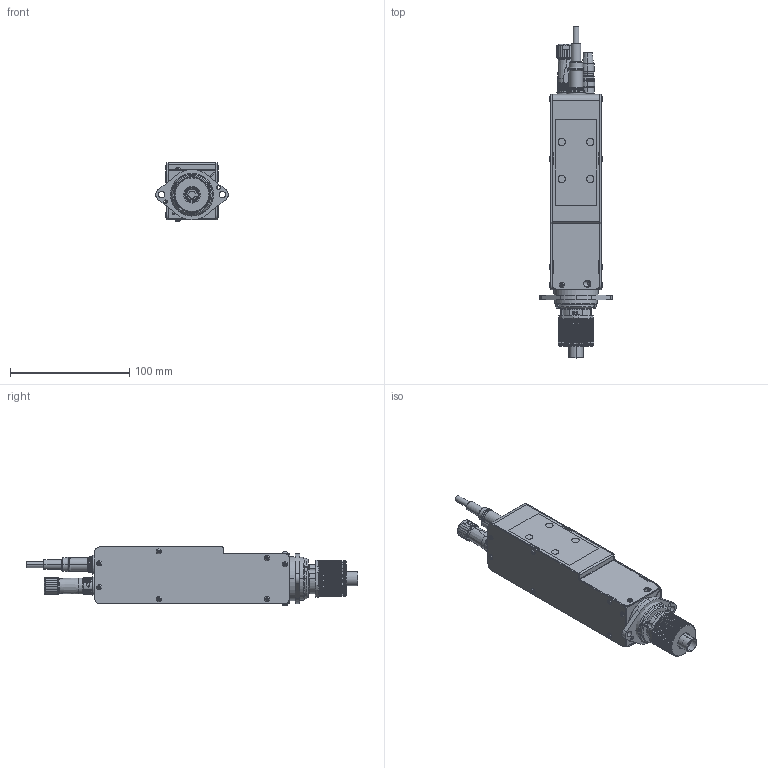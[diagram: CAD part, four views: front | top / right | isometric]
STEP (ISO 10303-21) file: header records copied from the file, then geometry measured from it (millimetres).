
FILE_DESCRIPTION (( 'STEP AP203' ), '1' );
FILE_NAME ('PGFA-7000_•”ŠOŒü‚¯.STEP', '2025-09-29T08:09:15', ( '' ), ( '' ), 'SwSTEP 2.0', 'SolidWorks 2023', '' );
FILE_SCHEMA (( 'CONFIG_CONTROL_DESIGN' ));
Products named in the file (1): PGFA-7000_部外向け
Bounding box: 60.97 x 278.83 x 49.21 mm (x, y, z)
Surface area: 68891.5 mm2 (no closed solid volume)
Topology: 0 solids, 68 shells, 1083 faces, 3820 edges, 2720 vertices
Faces by surface type: plane 424, cylinder 383, cone 183, torus 79, bspline 14
Entity records: 44528 total; most frequent: CARTESIAN_POINT 13232, DIRECTION 6423, ORIENTED_EDGE 5884, EDGE_CURVE 3812, VERTEX_POINT 2720, AXIS2_PLACEMENT_3D 2415, LINE 1593, VECTOR 1593
